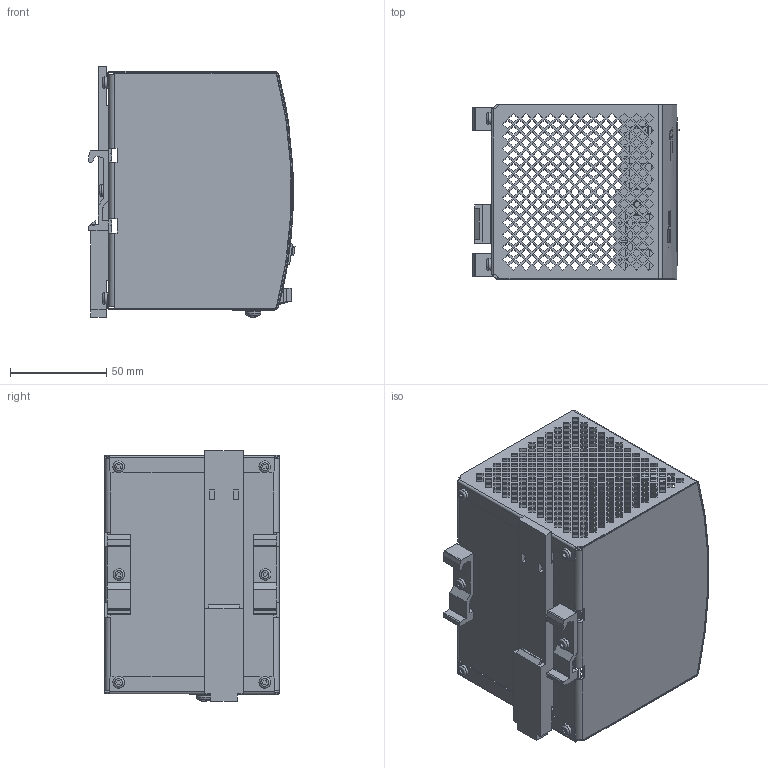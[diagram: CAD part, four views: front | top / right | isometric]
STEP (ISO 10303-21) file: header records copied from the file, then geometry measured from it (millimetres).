
FILE_DESCRIPTION((''),'2;1');
FILE_NAME('C:\Users\rahns\Desktop\Sylvia Info´s\Dateien für Vertrieb\SLA8\100\md3_sla8_100.stp','2012-06-12T10:40:10',('rahns'),(''),'Autodesk Inventor 2009','Autodesk Inventor 2009','');
FILE_SCHEMA(('AUTOMOTIVE_DESIGN { 1 0 10303 214 1 1 1 1 }'));
Length unit declared in the file: millimetre
Products named in the file (17): 342; SLIDER SL; T-HOLDER_SL; HOUSING BODY 342; HOUSING COVER 342; TERMINAL 2P GR9A; TERMINAL 3P GR9A; TERMINAL 3P GR90; SCREW 4x8; WASHER 4; SCREW 3x6; SWITCH_2U6U; JUMPER BRACKET; JUMPER; BUTTON BROWN; FRONTFOIL 342; FOIL 342
Assembly tree (22 placements, depth 2):
  342
    SLIDER SL
    T-HOLDER_SL  x2
    HOUSING BODY 342
    HOUSING COVER 342
    TERMINAL 2P GR9A
    TERMINAL 3P GR9A
    TERMINAL 3P GR90
    SCREW 4x8
    WASHER 4
    SCREW 3x6  x6
    SWITCH_2U6U
    JUMPER BRACKET
    JUMPER
    BUTTON BROWN
    FRONTFOIL 342
    FOIL 342
Bounding box: 107.27 x 90.7 x 130.5 mm (x, y, z)
Volume: 102338.2 mm3; surface area: 157275.2 mm2
Topology: 22 solids, 22 shells, 4905 faces, 13773 edges, 9151 vertices
Faces by surface type: plane 3625, bspline 943, cylinder 306, cone 18, torus 12, sphere 1
Full cylindrical faces by diameter (mm): 1 x2, 2.45 x6, 3 x6, 3.5 x3, 3.621 x1, 4 x1, 4.146 x1, 4.4 x1, 4.838 x1, 4.9 x3, 5.5 x8, 6 x6, 6.5 x1
Entity records: 466606 total; most frequent: CARTESIAN_POINT 346522, ORIENTED_EDGE 26932, DIRECTION 19338, EDGE_CURVE 13466, VECTOR 10396, LINE 10396, VERTEX_POINT 8967, EDGE_LOOP 6183
